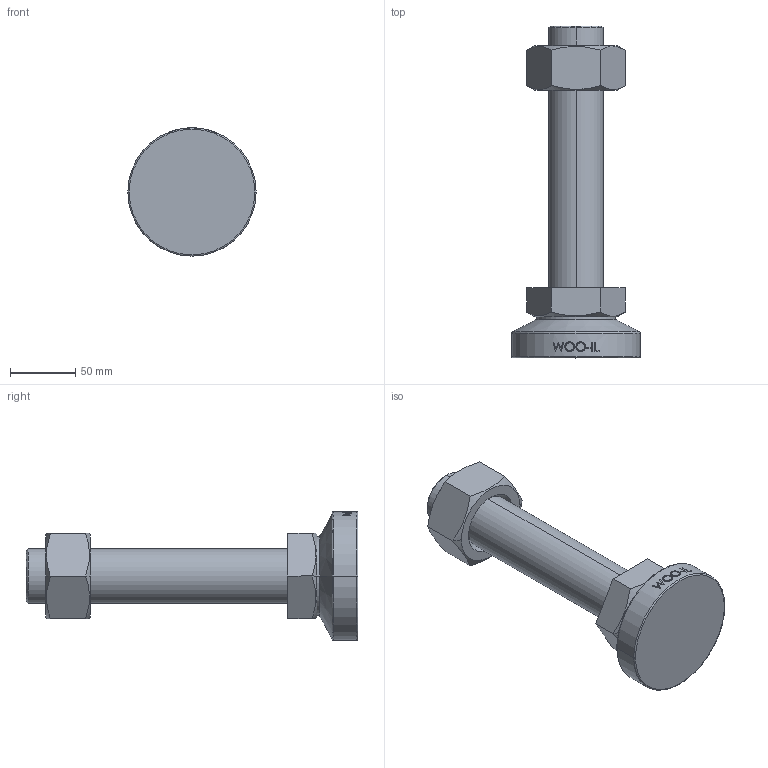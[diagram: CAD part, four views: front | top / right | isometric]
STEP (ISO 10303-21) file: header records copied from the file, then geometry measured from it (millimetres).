
FILE_DESCRIPTION (( 'STEP AP214' ), '1' );
FILE_NAME ('MFB98-M42-200.step', '2022-06-27T08:37:45', ( '' ), ( '' ), 'SwSTEP 2.0', 'SolidWorks 2019', '' );
FILE_SCHEMA (( 'AUTOMOTIVE_DESIGN' ));
Length unit declared in the file: millimetre
Products named in the file (1): MFB98-M42-200
Bounding box: 98 x 253.5 x 98 mm (x, y, z)
Volume: 634481.1 mm3; surface area: 76005.1 mm2
Topology: 3 solids, 3 shells, 97 faces, 225 edges, 144 vertices
Faces by surface type: plane 47, cylinder 16, bspline 16, cone 14, torus 4
Entity records: 4315 total; most frequent: CARTESIAN_POINT 2185, ORIENTED_EDGE 450, DIRECTION 385, EDGE_CURVE 225, VERTEX_POINT 144, AXIS2_PLACEMENT_3D 144, EDGE_LOOP 109, LINE 97
